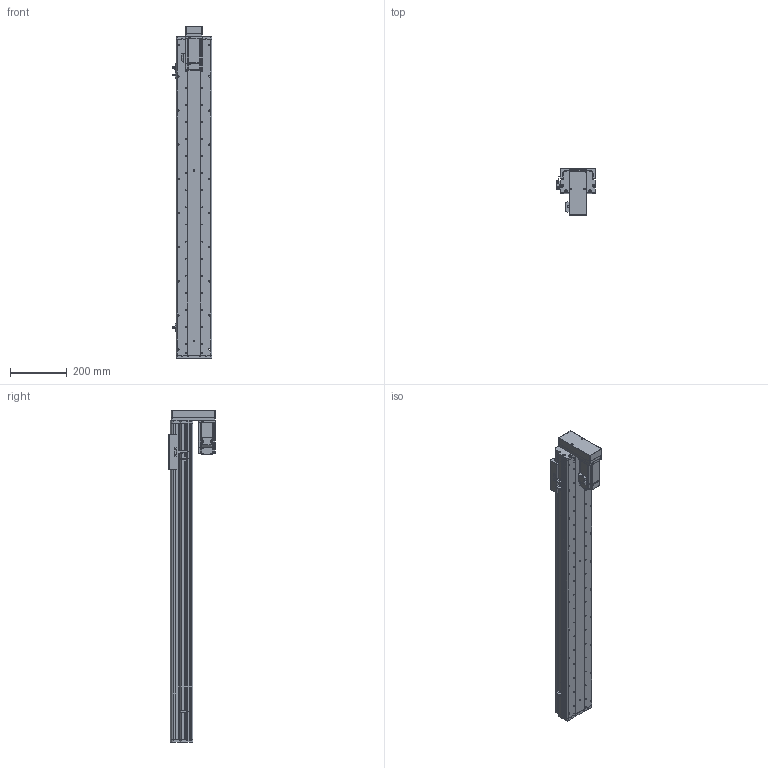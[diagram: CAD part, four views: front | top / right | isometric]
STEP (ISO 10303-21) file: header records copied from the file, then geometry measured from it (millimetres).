
FILE_DESCRIPTION (( 'STEP AP214' ), '1' );
FILE_NAME ('KSD125S-S900-MD-CM.STEP', '2017-10-21T08:14:43', ( '微软用户' ), ( '微软中国' ), 'SwSTEP 2.0', 'SolidWorks 2014', '' );
FILE_SCHEMA (( 'AUTOMOTIVE_DESIGN' ));
Length unit declared in the file: millimetre
Products named in the file (16): 拸萇儂釱滅袉菜-1; 覜茼え68遵圉猾敕; U倰嫖萇假蚾璃; U倰嫖萇EEㄜSX672; ヶ傷啣-125遵耀郪; 125-帣傷啣1; KSD125S-S900-MD-CM; 125宽马达安装板连板上下折丝杆同步带; 125遵悵誘欶奻狟殏; HTPA30S3M150_A_H6_a佪裝蚚; HTPA30S3M150_A_H6_a萇儂蚚; KSD125S-900俴最佪裝滅鳥裔; KSD125S-900俴最佪裝菁啣; KSD125-賑雄釱1; MHMD042G1CA_2_03; 拸萇儂釱滅袉菜
Assembly tree (19 placements, depth 2):
  KSD125S-S900-MD-CM
    125-帣傷啣1
    ヶ傷啣-125遵耀郪
    U倰嫖萇EEㄜSX672  x3
    U倰嫖萇假蚾璃  x3
    覜茼え68遵圉猾敕
    拸萇儂釱滅袉菜-1
    拸萇儂釱滅袉菜
    MHMD042G1CA_2_03
    KSD125-賑雄釱1
    KSD125S-900俴最佪裝菁啣
    KSD125S-900俴最佪裝滅鳥裔
    HTPA30S3M150_A_H6_a萇儂蚚
    HTPA30S3M150_A_H6_a佪裝蚚
    125遵悵誘欶奻狟殏
    125宽马达安装板连板上下折丝杆同步带
Bounding box: 138.7 x 165 x 1167.5 mm (x, y, z)
Volume: 3680930.6 mm3; surface area: 1242964.4 mm2
Topology: 18 solids, 21 shells, 2251 faces, 6531 edges, 4309 vertices
Faces by surface type: cylinder 1422, plane 688, cone 119, bspline 22
Entity records: 80915 total; most frequent: CARTESIAN_POINT 16165, DIRECTION 12429, ORIENTED_EDGE 11570, EDGE_CURVE 5863, AXIS2_PLACEMENT_3D 4815, VERTEX_POINT 3901, LINE 2799, VECTOR 2799
